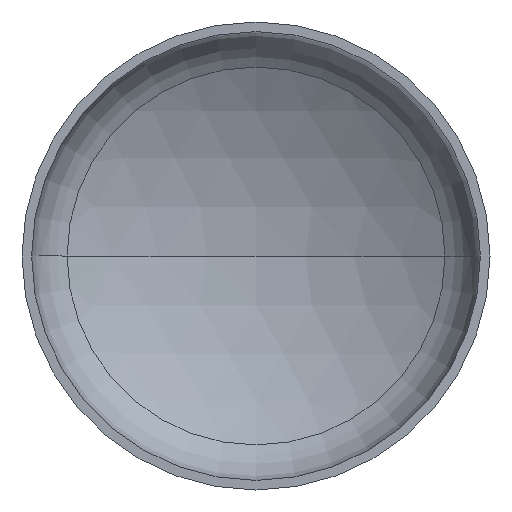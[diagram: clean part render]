
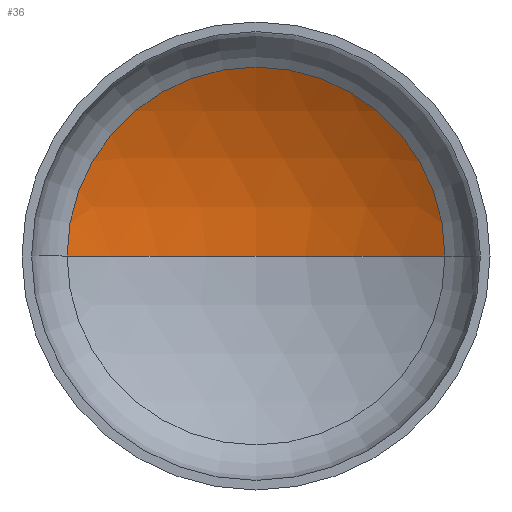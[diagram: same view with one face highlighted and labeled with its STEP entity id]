
A CAD part, front view. The second image highlights one B-rep face of the part: STEP entity #36.
In plain terms, the highlighted spherical face has radius 1360 mm.
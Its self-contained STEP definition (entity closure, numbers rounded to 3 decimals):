
#11 = AXIS2_PLACEMENT_3D ( 'NONE', #377, #182, #406 ) ;
#13 = EDGE_LOOP ( 'NONE', ( #34, #35, #69 ) ) ;
#14 = AXIS2_PLACEMENT_3D ( 'NONE', #330, #259, #171 ) ;
#25 = VERTEX_POINT ( 'NONE', #292 ) ;
#27 = AXIS2_PLACEMENT_3D ( 'NONE', #137, #138, #144 ) ;
#34 = ORIENTED_EDGE ( 'NONE', *, *, #323, .F. ) ;
#35 = ORIENTED_EDGE ( 'NONE', *, *, #348, .T. ) ;
#36 = ADVANCED_FACE ( 'NONE', ( #208 ), #133, .F. ) ;
#69 = ORIENTED_EDGE ( 'NONE', *, *, #346, .T. ) ;
#87 = AXIS2_PLACEMENT_3D ( 'NONE', #357, #291, #262 ) ;
#92 = VERTEX_POINT ( 'NONE', #233 ) ;
#125 = VERTEX_POINT ( 'NONE', #229 ) ;
#133 = SPHERICAL_SURFACE ( 'NONE', #87, 1360. ) ;
#137 = CARTESIAN_POINT ( 'NONE',  ( 0., -839.724, 0. ) ) ;
#138 = DIRECTION ( 'NONE',  ( 0., 0., 1. ) ) ;
#144 = DIRECTION ( 'NONE',  ( 1., 0., 0. ) ) ;
#171 = DIRECTION ( 'NONE',  ( 1., 0., 0. ) ) ;
#182 = DIRECTION ( 'NONE',  ( 0., 0., -1. ) ) ;
#208 = FACE_OUTER_BOUND ( 'NONE', #13, .T. ) ;
#229 = CARTESIAN_POINT ( 'NONE',  ( 0., 520.276, 0. ) ) ;
#233 = CARTESIAN_POINT ( 'NONE',  ( -686.182, 334.48, 0. ) ) ;
#259 = DIRECTION ( 'NONE',  ( 0., -1., 0. ) ) ;
#262 = DIRECTION ( 'NONE',  ( -1., 0., 0. ) ) ;
#274 = CIRCLE ( 'NONE', #14, 686.182 ) ;
#291 = DIRECTION ( 'NONE',  ( 0., 0., -1. ) ) ;
#292 = CARTESIAN_POINT ( 'NONE',  ( 686.182, 334.48, 0. ) ) ;
#323 = EDGE_CURVE ( 'NONE', #125, #92, #354, .T. ) ;
#330 = CARTESIAN_POINT ( 'NONE',  ( 0., 334.48, 0. ) ) ;
#346 = EDGE_CURVE ( 'NONE', #25, #92, #274, .T. ) ;
#348 = EDGE_CURVE ( 'NONE', #125, #25, #401, .T. ) ;
#354 = CIRCLE ( 'NONE', #27, 1360. ) ;
#357 = CARTESIAN_POINT ( 'NONE',  ( 0., -839.724, 0. ) ) ;
#377 = CARTESIAN_POINT ( 'NONE',  ( 0., -839.724, 0. ) ) ;
#401 = CIRCLE ( 'NONE', #11, 1360. ) ;
#406 = DIRECTION ( 'NONE',  ( -1., 0., 0. ) ) ;
